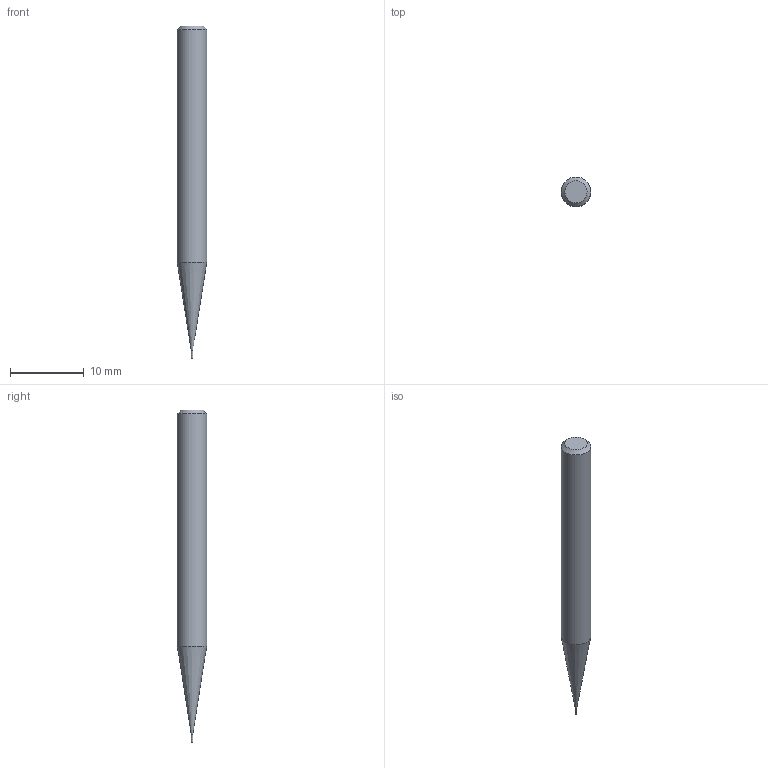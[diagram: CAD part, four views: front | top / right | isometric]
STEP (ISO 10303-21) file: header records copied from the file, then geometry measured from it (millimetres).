
FILE_DESCRIPTION((''),'2;1');
FILE_NAME('C:\Users\nsx150\AppData\Local\Temp\Mastercam 2022\7LNIXFDSL9\TEMP.stp','2024-06-19T18:12:30',(''),(''),'STEP Write','Mastercam 2022 ... CNC Software, Inc.','');
FILE_SCHEMA(('AUTOMOTIVE_DESIGN'));
Length unit declared in the file: millimetre
Products named in the file (1): None
Bounding box: 4 x 4 x 45 mm (x, y, z)
Volume: 453.7 mm3; surface area: 491.6 mm2
Topology: 2 solids, 2 shells, 8 faces, 10 edges, 6 vertices
Faces by surface type: plane 4, cylinder 2, cone 2
Full cylindrical faces by diameter (mm): 0.2 x1, 4 x1
Entity records: 190 total; most frequent: DIRECTION 32, CARTESIAN_POINT 22, AXIS2_PLACEMENT_3D 16, ORIENTED_EDGE 12, EDGE_LOOP 12, STYLED_ITEM 11, ADVANCED_FACE 8, VERTEX_POINT 6
